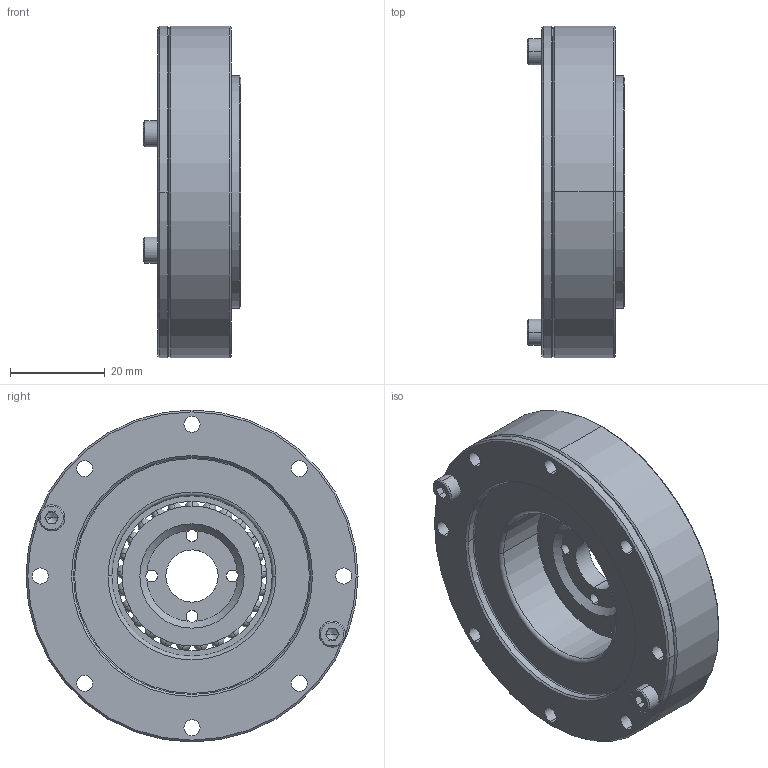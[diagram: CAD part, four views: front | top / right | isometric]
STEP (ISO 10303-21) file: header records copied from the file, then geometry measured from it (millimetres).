
FILE_DESCRIPTION (( 'STEP AP203' ), '1' );
FILE_NAME ('BHD-14-XXX-U-¢ñ.STEP', '2019-01-15T06:12:08', ( 'User' ), ( 'China' ), 'SwSTEP 2.0', 'SolidWorks 2015', '' );
FILE_SCHEMA (( 'CONFIG_CONTROL_DESIGN' ));
Length unit declared in the file: millimetre
Products named in the file (1): BHD-14-XXX-U-ｉ
Bounding box: 20.5 x 70 x 70 mm (x, y, z)
Surface area: 19392.6 mm2 (no closed solid volume)
Topology: 0 solids, 33 shells, 214 faces, 613 edges, 405 vertices
Faces by surface type: cylinder 88, sphere 50, plane 36, cone 22, torus 16, bspline 2
Entity records: 6307 total; most frequent: DIRECTION 1202, CARTESIAN_POINT 1163, ORIENTED_EDGE 888, AXIS2_PLACEMENT_3D 521, EDGE_CURVE 484, VERTEX_POINT 330, CIRCLE 308, EDGE_LOOP 270
